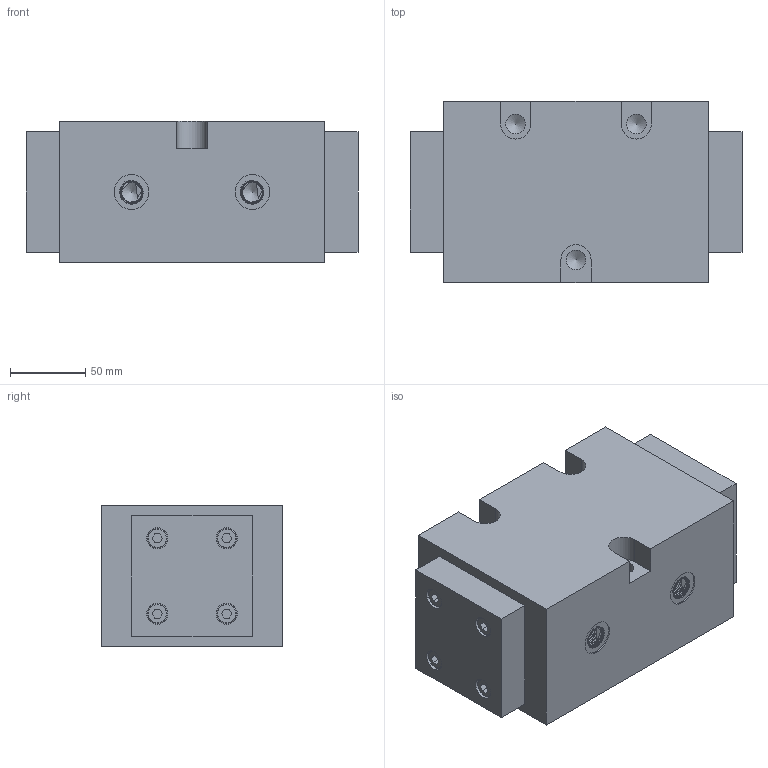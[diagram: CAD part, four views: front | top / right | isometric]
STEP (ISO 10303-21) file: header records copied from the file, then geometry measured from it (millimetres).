
FILE_DESCRIPTION(/* description */ (''),/* implementation_level */ '2;1');
FILE_NAME(/* name */ '14-1.stp',/* time_stamp */ '2023-05-01T20:38:10+08:00',/* author */ (''),/* organization */ (''),/* preprocessor_version */ 'ST-DEVELOPER v16.7',/* originating_system */ 'SIEMENS PLM Software NX 12.0',/* authorisation */ '');
FILE_SCHEMA (('AUTOMOTIVE_DESIGN { 1 0 10303 214 3 1 1 1 }'));
Length unit declared in the file: millimetre
Products named in the file (1): 14-1
Bounding box: 220 x 120 x 94 mm (x, y, z)
Volume: 2203176.5 mm3; surface area: 174149.3 mm2
Topology: 11 solids, 11 shells, 263 faces, 658 edges, 436 vertices
Faces by surface type: plane 153, cylinder 71, cone 22, bspline 9, torus 8
Full cylindrical faces by diameter (mm): 6.8 x8, 8 x8, 9 x8, 13 x11, 14 x8, 23 x2, 26 x1
Entity records: 24415 total; most frequent: CARTESIAN_POINT 18557, DIRECTION 1165, ORIENTED_EDGE 1044, EDGE_CURVE 522, AXIS2_PLACEMENT_3D 426, EDGE_LOOP 398, VERTEX_POINT 398, LINE 313
